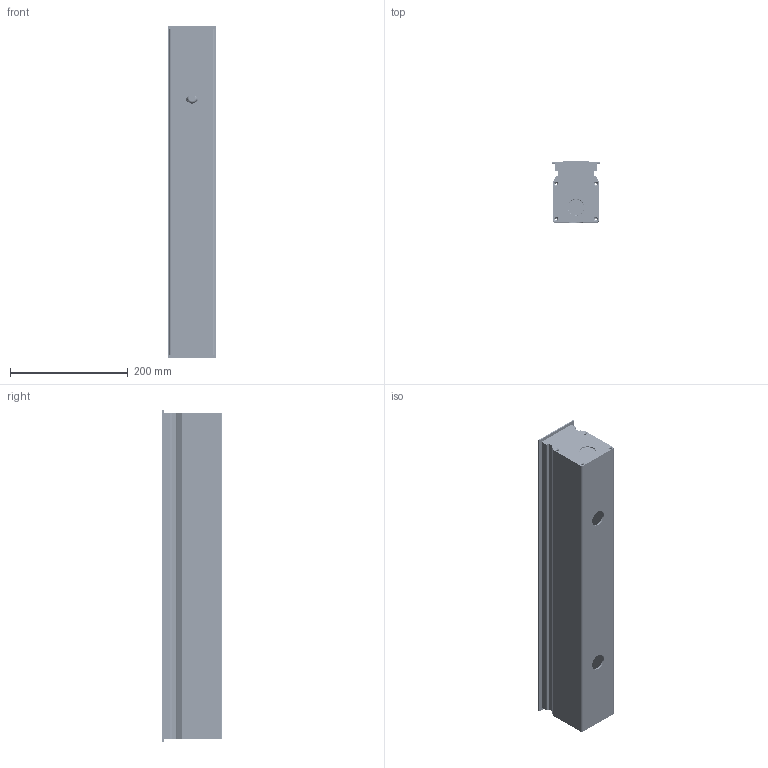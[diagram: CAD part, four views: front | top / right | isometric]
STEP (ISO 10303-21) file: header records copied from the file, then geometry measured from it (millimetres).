
FILE_DESCRIPTION((''),'2;1');
FILE_NAME('2RLB-12-YOUBIAN_ASM','2020-08-11T',('Administrator'),(''),'PRO/ENGINEER BY PARAMETRIC TECHNOLOGY CORPORATION, 2014000','PRO/ENGINEER BY PARAMETRIC TECHNOLOGY CORPORATION, 2014000','');
FILE_SCHEMA(('CONFIG_CONTROL_DESIGN'));
Products named in the file (23): 2RL-12DT-YOUBIAN; 2RLZUOYOUGAI; YUMAITONG-YUUBIAN-12; YUMAIJIANZUOYOUGAI; 2RQ-02; PRT0012; YUMAIJIAN-YBIAN-12_ASM; ZUOYOUGAIGUIJIAODIAN; XINGUANGYUANBAN; PRT0001; TOU-JING; TJ-ZJ_ASM; XINGUANGYUAN_ASM; YABAN; GESANZHAO-M; 2R-24MIANGAIYOUBIANKUANG; 2R-24BL; YABAN-00; ____-____7; ____2; PG9_____ASM_ASM_ASM_ASM; 50W-QUDONG; 2RLB-12-YOUBIAN_ASM
Assembly tree (41 placements, depth 4):
  2RLB-12-YOUBIAN_ASM
    2RL-12DT-YOUBIAN
    2RLZUOYOUGAI  x2
    YUMAIJIAN-YBIAN-12_ASM
      YUMAITONG-YUUBIAN-12
      YUMAIJIANZUOYOUGAI  x2
      2RQ-02
      PRT0012
    ZUOYOUGAIGUIJIAODIAN  x2
    XINGUANGYUAN_ASM
      XINGUANGYUANBAN
      TJ-ZJ_ASM  x12
        PRT0001
        TOU-JING
    YABAN  x2
    GESANZHAO-M  x2
    2R-24MIANGAIYOUBIANKUANG
    2R-24BL
    YABAN-00  x4
    PG9_____ASM_ASM_ASM_ASM
      ____-____7
      ____2
    50W-QUDONG
Bounding box: 83 x 103.3 x 565 mm (x, y, z)
Volume: 1468592.5 mm3; surface area: 899237.2 mm2
Topology: 48 solids, 48 shells, 18430 faces, 69935 edges, 36678 vertices
Faces by surface type: sphere 15024, plane 2124, cylinder 695, cone 403, bspline 96, extrusion 66, torus 22
Entity records: 110563 total; most frequent: CARTESIAN_POINT 39478, ORIENTED_EDGE 15896, DIRECTION 13488, EDGE_CURVE 7948, AXIS2_PLACEMENT_3D 5426, VERTEX_POINT 5239, EDGE_LOOP 3143, B_SPLINE_CURVE_WITH_KNOTS 2848
